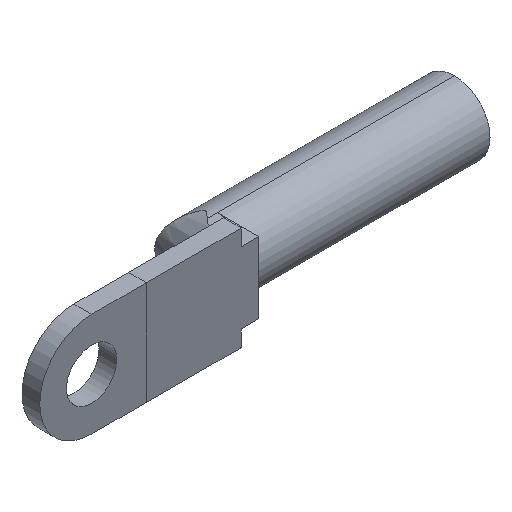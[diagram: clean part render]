
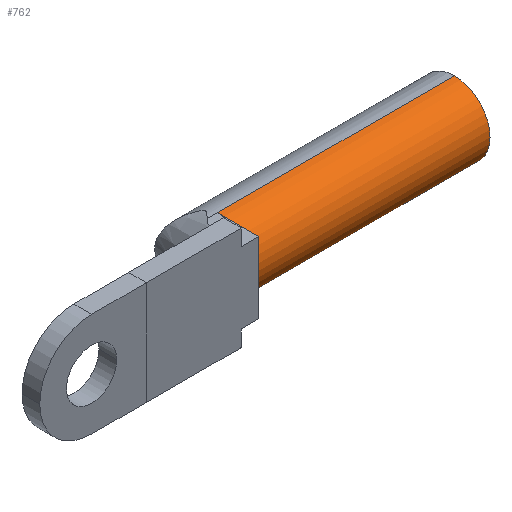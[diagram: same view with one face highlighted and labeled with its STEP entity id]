
A CAD part, isometric view. The second image highlights one B-rep face of the part: STEP entity #762.
In plain terms, the highlighted cylindrical face has radius 6 mm (diameter 12 mm), a partial arc.
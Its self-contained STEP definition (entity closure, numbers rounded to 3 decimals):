
#5 = LINE ( 'NONE', #538, #591 ) ;
#21 = DIRECTION ( 'NONE',  ( 0., 0., 1. ) ) ;
#38 = AXIS2_PLACEMENT_3D ( 'NONE', #220, #507, #588 ) ;
#61 = AXIS2_PLACEMENT_3D ( 'NONE', #380, #682, #21 ) ;
#89 = EDGE_CURVE ( 'NONE', #793, #668, #359, .T. ) ;
#116 = CARTESIAN_POINT ( 'NONE',  ( 40., 6., 6. ) ) ;
#134 = EDGE_LOOP ( 'NONE', ( #309, #387, #561, #245 ) ) ;
#147 = LINE ( 'NONE', #795, #527 ) ;
#155 = AXIS2_PLACEMENT_3D ( 'NONE', #720, #419, #800 ) ;
#170 = VERTEX_POINT ( 'NONE', #116 ) ;
#197 = CARTESIAN_POINT ( 'NONE',  ( 40., 6., -6. ) ) ;
#220 = CARTESIAN_POINT ( 'NONE',  ( 40., 6., 0. ) ) ;
#230 = VERTEX_POINT ( 'NONE', #197 ) ;
#245 = ORIENTED_EDGE ( 'NONE', *, *, #89, .T. ) ;
#265 = EDGE_CURVE ( 'NONE', #230, #668, #147, .T. ) ;
#309 = ORIENTED_EDGE ( 'NONE', *, *, #265, .F. ) ;
#319 = DIRECTION ( 'NONE',  ( -1., 0., 0. ) ) ;
#320 = CYLINDRICAL_SURFACE ( 'NONE', #38, 6. ) ;
#349 = DIRECTION ( 'NONE',  ( -1., 0., 0. ) ) ;
#359 = CIRCLE ( 'NONE', #61, 6. ) ;
#373 = CARTESIAN_POINT ( 'NONE',  ( 0., 6., 6. ) ) ;
#380 = CARTESIAN_POINT ( 'NONE',  ( 0., 6., 0. ) ) ;
#387 = ORIENTED_EDGE ( 'NONE', *, *, #583, .F. ) ;
#419 = DIRECTION ( 'NONE',  ( 1., 0., 0. ) ) ;
#473 = EDGE_CURVE ( 'NONE', #170, #793, #5, .T. ) ;
#507 = DIRECTION ( 'NONE',  ( -1., 0., 0. ) ) ;
#518 = CIRCLE ( 'NONE', #155, 6. ) ;
#527 = VECTOR ( 'NONE', #349, 1000. ) ;
#538 = CARTESIAN_POINT ( 'NONE',  ( 40., 6., 6. ) ) ;
#561 = ORIENTED_EDGE ( 'NONE', *, *, #473, .T. ) ;
#564 = CARTESIAN_POINT ( 'NONE',  ( 0., 6., -6. ) ) ;
#583 = EDGE_CURVE ( 'NONE', #170, #230, #518, .T. ) ;
#588 = DIRECTION ( 'NONE',  ( 0., 0., 1. ) ) ;
#591 = VECTOR ( 'NONE', #319, 1000. ) ;
#668 = VERTEX_POINT ( 'NONE', #564 ) ;
#682 = DIRECTION ( 'NONE',  ( 1., 0., 0. ) ) ;
#720 = CARTESIAN_POINT ( 'NONE',  ( 40., 6., 0. ) ) ;
#762 = ADVANCED_FACE ( 'NONE', ( #920 ), #320, .T. ) ;
#793 = VERTEX_POINT ( 'NONE', #373 ) ;
#795 = CARTESIAN_POINT ( 'NONE',  ( 40., 6., -6. ) ) ;
#800 = DIRECTION ( 'NONE',  ( 0., 0., -1. ) ) ;
#920 = FACE_OUTER_BOUND ( 'NONE', #134, .T. ) ;
